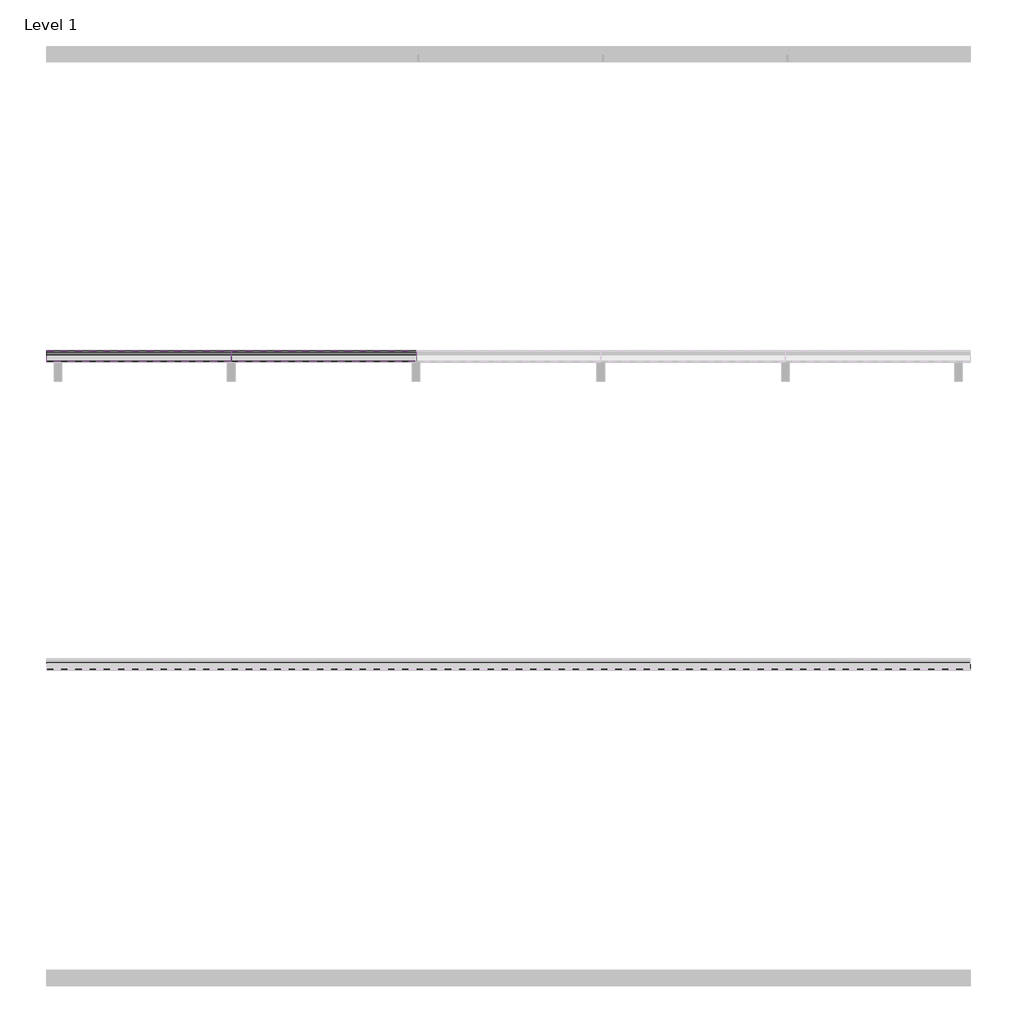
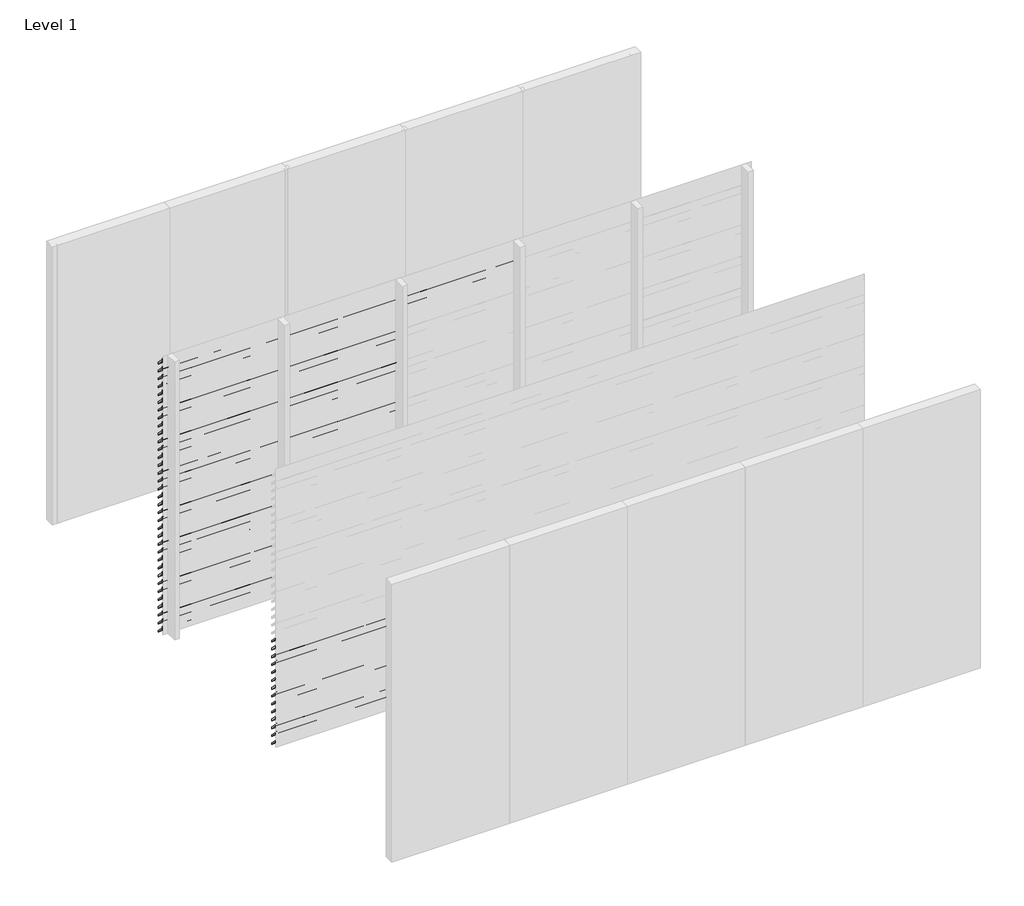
# One storey, part 2 of 10: 90 proxies.
"""IFC4 building model written with IfcOpenShell, lengths in millimetres."""

from ifc_helpers import new_model, si_unit, frame, origin, place, context, project, spatial, polyline, outline, extrude, element, save

model = new_model("IFC4")

# Units and contexts
model_context = context("Model", 3, world=origin())
ifc_project = project(units=[si_unit("LENGTHUNIT", "METRE", prefix="MILLI")], contexts=[model_context])

# Site, building, storey
site = spatial("IfcSite", under=ifc_project)
building = spatial("IfcBuilding", under=site)
storey = spatial("IfcBuildingStorey", under=building, Name="Level 1", Elevation=0.0)

# Proxies
placement = place(None, origin())
element("IfcBuildingElementProxy", 1, Name="Wall Sweeps", at=placement, inside=storey, context=model_context, shape_type="SweptSolid", body=[
    extrude(outline(polyline([(-17995.0, 2975.0), (-17995.0, 2962.0), (-17927.0, 2894.0), (-17927.0, 2876.0), (-17997.0, 2946.0), (-17997.0, 2975.0), (-17995.0, 2975.0)])), frame((2400.0000001, 0.0, 0.0), z_axis=(1.0, 0.0, 0.0), x_axis=(0.0, 1.0, 0.0)), (0.0, 0.0, 1.0), 1199.9999999),
])
element("IfcBuildingElementProxy", 2, Name="Wall Sweeps", at=placement, inside=storey, context=model_context, shape_type="SweptSolid", body=[
    extrude(outline(polyline([(-17995.0, 2890.0), (-17995.0, 2877.0), (-17927.0, 2809.0), (-17927.0, 2791.0), (-17997.0, 2861.0), (-17997.0, 2890.0), (-17995.0, 2890.0)])), frame((2400.0000001, 0.0, 0.0), z_axis=(1.0, 0.0, 0.0), x_axis=(0.0, 1.0, 0.0)), (0.0, 0.0, 1.0), 1199.9999999),
])
element("IfcBuildingElementProxy", 3, Name="Wall Sweeps", at=placement, inside=storey, context=model_context, shape_type="SweptSolid", body=[
    extrude(outline(polyline([(-17995.0, 2805.0), (-17995.0, 2792.0), (-17927.0, 2724.0), (-17927.0, 2706.0), (-17997.0, 2776.0), (-17997.0, 2805.0), (-17995.0, 2805.0)])), frame((2400.0000001, 0.0, 0.0), z_axis=(1.0, 0.0, 0.0), x_axis=(0.0, 1.0, 0.0)), (0.0, 0.0, 1.0), 1199.9999999),
])
element("IfcBuildingElementProxy", 4, Name="Wall Sweeps", at=placement, inside=storey, context=model_context, shape_type="SweptSolid", body=[
    extrude(outline(polyline([(-17995.0, 2720.0), (-17995.0, 2707.0), (-17927.0, 2639.0), (-17927.0, 2621.0), (-17997.0, 2691.0), (-17997.0, 2720.0), (-17995.0, 2720.0)])), frame((2400.0000001, 0.0, 0.0), z_axis=(1.0, 0.0, 0.0), x_axis=(0.0, 1.0, 0.0)), (0.0, 0.0, 1.0), 1199.9999999),
])
element("IfcBuildingElementProxy", 5, Name="Wall Sweeps", at=placement, inside=storey, context=model_context, shape_type="SweptSolid", body=[
    extrude(outline(polyline([(-17995.0, 2635.0), (-17995.0, 2622.0), (-17927.0, 2554.0), (-17927.0, 2536.0), (-17997.0, 2606.0), (-17997.0, 2635.0), (-17995.0, 2635.0)])), frame((2400.0000001, 0.0, 0.0), z_axis=(1.0, 0.0, 0.0), x_axis=(0.0, 1.0, 0.0)), (0.0, 0.0, 1.0), 1199.9999999),
])
element("IfcBuildingElementProxy", 6, Name="Wall Sweeps", at=placement, inside=storey, context=model_context, shape_type="SweptSolid", body=[
    extrude(outline(polyline([(-17995.0, 2550.0), (-17995.0, 2537.0), (-17927.0, 2469.0), (-17927.0, 2451.0), (-17997.0, 2521.0), (-17997.0, 2550.0), (-17995.0, 2550.0)])), frame((2400.0000001, 0.0, 0.0), z_axis=(1.0, 0.0, 0.0), x_axis=(0.0, 1.0, 0.0)), (0.0, 0.0, 1.0), 1199.9999999),
])
element("IfcBuildingElementProxy", 7, Name="Wall Sweeps", at=placement, inside=storey, context=model_context, shape_type="SweptSolid", body=[
    extrude(outline(polyline([(-17995.0, 2975.0), (-17995.0, 2962.0), (-17927.0, 2894.0), (-17927.0, 2876.0), (-17997.0, 2946.0), (-17997.0, 2975.0), (-17995.0, 2975.0)])), frame((1200.0000002, 0.0, 0.0), z_axis=(1.0, 0.0, 0.0), x_axis=(0.0, 1.0, 0.0)), (0.0, 0.0, 1.0), 1199.9999999),
])
element("IfcBuildingElementProxy", 8, Name="Wall Sweeps", at=placement, inside=storey, context=model_context, shape_type="SweptSolid", body=[
    extrude(outline(polyline([(-17995.0, 2890.0), (-17995.0, 2877.0), (-17927.0, 2809.0), (-17927.0, 2791.0), (-17997.0, 2861.0), (-17997.0, 2890.0), (-17995.0, 2890.0)])), frame((1200.0000002, 0.0, 0.0), z_axis=(1.0, 0.0, 0.0), x_axis=(0.0, 1.0, 0.0)), (0.0, 0.0, 1.0), 1199.9999999),
])
element("IfcBuildingElementProxy", 9, Name="Wall Sweeps", at=placement, inside=storey, context=model_context, shape_type="SweptSolid", body=[
    extrude(outline(polyline([(-17995.0, 2805.0), (-17995.0, 2792.0), (-17927.0, 2724.0), (-17927.0, 2706.0), (-17997.0, 2776.0), (-17997.0, 2805.0), (-17995.0, 2805.0)])), frame((1200.0000002, 0.0, 0.0), z_axis=(1.0, 0.0, 0.0), x_axis=(0.0, 1.0, 0.0)), (0.0, 0.0, 1.0), 1199.9999999),
])
element("IfcBuildingElementProxy", 10, Name="Wall Sweeps", at=placement, inside=storey, context=model_context, shape_type="SweptSolid", body=[
    extrude(outline(polyline([(-17995.0, 2720.0), (-17995.0, 2707.0), (-17927.0, 2639.0), (-17927.0, 2621.0), (-17997.0, 2691.0), (-17997.0, 2720.0), (-17995.0, 2720.0)])), frame((1200.0000002, 0.0, 0.0), z_axis=(1.0, 0.0, 0.0), x_axis=(0.0, 1.0, 0.0)), (0.0, 0.0, 1.0), 1199.9999999),
])
element("IfcBuildingElementProxy", 11, Name="Wall Sweeps", at=placement, inside=storey, context=model_context, shape_type="SweptSolid", body=[
    extrude(outline(polyline([(-17995.0, 2635.0), (-17995.0, 2622.0), (-17927.0, 2554.0), (-17927.0, 2536.0), (-17997.0, 2606.0), (-17997.0, 2635.0), (-17995.0, 2635.0)])), frame((1200.0000002, 0.0, 0.0), z_axis=(1.0, 0.0, 0.0), x_axis=(0.0, 1.0, 0.0)), (0.0, 0.0, 1.0), 1199.9999999),
])
element("IfcBuildingElementProxy", 12, Name="Wall Sweeps", at=placement, inside=storey, context=model_context, shape_type="SweptSolid", body=[
    extrude(outline(polyline([(-17995.0, 2550.0), (-17995.0, 2537.0), (-17927.0, 2469.0), (-17927.0, 2451.0), (-17997.0, 2521.0), (-17997.0, 2550.0), (-17995.0, 2550.0)])), frame((1200.0000002, 0.0, 0.0), z_axis=(1.0, 0.0, 0.0), x_axis=(0.0, 1.0, 0.0)), (0.0, 0.0, 1.0), 1199.9999999),
])
element("IfcBuildingElementProxy", 13, Name="Wall Sweeps", at=placement, inside=storey, context=model_context, shape_type="SweptSolid", body=[
    extrude(outline(polyline([(-17995.0, 2465.0), (-17995.0, 2452.0), (-17927.0, 2384.0), (-17927.0, 2366.0), (-17997.0, 2436.0), (-17997.0, 2465.0), (-17995.0, 2465.0)])), frame((1200.0000002, 0.0, 0.0), z_axis=(1.0, 0.0, 0.0), x_axis=(0.0, 1.0, 0.0)), (0.0, 0.0, 1.0), 1199.9999999),
])
element("IfcBuildingElementProxy", 14, Name="Wall Sweeps", at=placement, inside=storey, context=model_context, shape_type="SweptSolid", body=[
    extrude(outline(polyline([(-17995.0, 2380.0), (-17995.0, 2367.0), (-17927.0, 2299.0), (-17927.0, 2281.0), (-17997.0, 2351.0), (-17997.0, 2380.0), (-17995.0, 2380.0)])), frame((1200.0000002, 0.0, 0.0), z_axis=(1.0, 0.0, 0.0), x_axis=(0.0, 1.0, 0.0)), (0.0, 0.0, 1.0), 1199.9999999),
])
element("IfcBuildingElementProxy", 15, Name="Wall Sweeps", at=placement, inside=storey, context=model_context, shape_type="SweptSolid", body=[
    extrude(outline(polyline([(-17995.0, 2295.0), (-17995.0, 2282.0), (-17927.0, 2214.0), (-17927.0, 2196.0), (-17997.0, 2266.0), (-17997.0, 2295.0), (-17995.0, 2295.0)])), frame((1200.0000002, 0.0, 0.0), z_axis=(1.0, 0.0, 0.0), x_axis=(0.0, 1.0, 0.0)), (0.0, 0.0, 1.0), 1199.9999999),
])
element("IfcBuildingElementProxy", 16, Name="Wall Sweeps", at=placement, inside=storey, context=model_context, shape_type="SweptSolid", body=[
    extrude(outline(polyline([(-17995.0, 2210.0), (-17995.0, 2197.0), (-17927.0, 2129.0), (-17927.0, 2111.0), (-17997.0, 2181.0), (-17997.0, 2210.0), (-17995.0, 2210.0)])), frame((1200.0000002, 0.0, 0.0), z_axis=(1.0, 0.0, 0.0), x_axis=(0.0, 1.0, 0.0)), (0.0, 0.0, 1.0), 1199.9999999),
])
element("IfcBuildingElementProxy", 17, Name="Wall Sweeps", at=placement, inside=storey, context=model_context, shape_type="SweptSolid", body=[
    extrude(outline(polyline([(-17995.0, 2125.0), (-17995.0, 2112.0), (-17927.0, 2044.0), (-17927.0, 2026.0), (-17997.0, 2096.0), (-17997.0, 2125.0), (-17995.0, 2125.0)])), frame((1200.0000002, 0.0, 0.0), z_axis=(1.0, 0.0, 0.0), x_axis=(0.0, 1.0, 0.0)), (0.0, 0.0, 1.0), 1199.9999999),
])
element("IfcBuildingElementProxy", 18, Name="Wall Sweeps", at=placement, inside=storey, context=model_context, shape_type="SweptSolid", body=[
    extrude(outline(polyline([(-17995.0, 2040.0), (-17995.0, 2027.0), (-17927.0, 1959.0), (-17927.0, 1941.0), (-17997.0, 2011.0), (-17997.0, 2040.0), (-17995.0, 2040.0)])), frame((1200.0000002, 0.0, 0.0), z_axis=(1.0, 0.0, 0.0), x_axis=(0.0, 1.0, 0.0)), (0.0, 0.0, 1.0), 1199.9999999),
])
element("IfcBuildingElementProxy", 19, Name="Wall Sweeps", at=placement, inside=storey, context=model_context, shape_type="SweptSolid", body=[
    extrude(outline(polyline([(-17995.0, 1955.0), (-17995.0, 1942.0), (-17927.0, 1874.0), (-17927.0, 1856.0), (-17997.0, 1926.0), (-17997.0, 1955.0), (-17995.0, 1955.0)])), frame((1200.0000002, 0.0, 0.0), z_axis=(1.0, 0.0, 0.0), x_axis=(0.0, 1.0, 0.0)), (0.0, 0.0, 1.0), 1199.9999999),
])
element("IfcBuildingElementProxy", 20, Name="Wall Sweeps", at=placement, inside=storey, context=model_context, shape_type="SweptSolid", body=[
    extrude(outline(polyline([(-17995.0, 1870.0), (-17995.0, 1857.0), (-17927.0, 1789.0), (-17927.0, 1771.0), (-17997.0, 1841.0), (-17997.0, 1870.0), (-17995.0, 1870.0)])), frame((1200.0000002, 0.0, 0.0), z_axis=(1.0, 0.0, 0.0), x_axis=(0.0, 1.0, 0.0)), (0.0, 0.0, 1.0), 1199.9999999),
])
element("IfcBuildingElementProxy", 21, Name="Wall Sweeps", at=placement, inside=storey, context=model_context, shape_type="SweptSolid", body=[
    extrude(outline(polyline([(-17995.0, 1785.0), (-17995.0, 1772.0), (-17927.0, 1704.0), (-17927.0, 1686.0), (-17997.0, 1756.0), (-17997.0, 1785.0), (-17995.0, 1785.0)])), frame((1200.0000002, 0.0, 0.0), z_axis=(1.0, 0.0, 0.0), x_axis=(0.0, 1.0, 0.0)), (0.0, 0.0, 1.0), 1199.9999999),
])
element("IfcBuildingElementProxy", 22, Name="Wall Sweeps", at=placement, inside=storey, context=model_context, shape_type="SweptSolid", body=[
    extrude(outline(polyline([(-17995.0, 1700.0), (-17995.0, 1687.0), (-17927.0, 1619.0), (-17927.0, 1601.0), (-17997.0, 1671.0), (-17997.0, 1700.0), (-17995.0, 1700.0)])), frame((1200.0000002, 0.0, 0.0), z_axis=(1.0, 0.0, 0.0), x_axis=(0.0, 1.0, 0.0)), (0.0, 0.0, 1.0), 1199.9999999),
])
element("IfcBuildingElementProxy", 23, Name="Wall Sweeps", at=placement, inside=storey, context=model_context, shape_type="SweptSolid", body=[
    extrude(outline(polyline([(-17995.0, 1615.0), (-17995.0, 1602.0), (-17927.0, 1534.0), (-17927.0, 1516.0), (-17997.0, 1586.0), (-17997.0, 1615.0), (-17995.0, 1615.0)])), frame((1200.0000002, 0.0, 0.0), z_axis=(1.0, 0.0, 0.0), x_axis=(0.0, 1.0, 0.0)), (0.0, 0.0, 1.0), 1199.9999999),
])
element("IfcBuildingElementProxy", 24, Name="Wall Sweeps", at=placement, inside=storey, context=model_context, shape_type="SweptSolid", body=[
    extrude(outline(polyline([(-17995.0, 1530.0), (-17995.0, 1517.0), (-17927.0, 1449.0), (-17927.0, 1431.0), (-17997.0, 1501.0), (-17997.0, 1530.0), (-17995.0, 1530.0)])), frame((1200.0000002, 0.0, 0.0), z_axis=(1.0, 0.0, 0.0), x_axis=(0.0, 1.0, 0.0)), (0.0, 0.0, 1.0), 1199.9999999),
])
element("IfcBuildingElementProxy", 25, Name="Wall Sweeps", at=placement, inside=storey, context=model_context, shape_type="SweptSolid", body=[
    extrude(outline(polyline([(-17995.0, 1445.0), (-17995.0, 1432.0), (-17927.0, 1364.0), (-17927.0, 1346.0), (-17997.0, 1416.0), (-17997.0, 1445.0), (-17995.0, 1445.0)])), frame((1200.0000002, 0.0, 0.0), z_axis=(1.0, 0.0, 0.0), x_axis=(0.0, 1.0, 0.0)), (0.0, 0.0, 1.0), 1199.9999999),
])
element("IfcBuildingElementProxy", 26, Name="Wall Sweeps", at=placement, inside=storey, context=model_context, shape_type="SweptSolid", body=[
    extrude(outline(polyline([(-17995.0, 1360.0), (-17995.0, 1347.0), (-17927.0, 1279.0), (-17927.0, 1261.0), (-17997.0, 1331.0), (-17997.0, 1360.0), (-17995.0, 1360.0)])), frame((1200.0000002, 0.0, 0.0), z_axis=(1.0, 0.0, 0.0), x_axis=(0.0, 1.0, 0.0)), (0.0, 0.0, 1.0), 1199.9999999),
])
element("IfcBuildingElementProxy", 27, Name="Wall Sweeps", at=placement, inside=storey, context=model_context, shape_type="SweptSolid", body=[
    extrude(outline(polyline([(-17995.0, 1275.0), (-17995.0, 1262.0), (-17927.0, 1194.0), (-17927.0, 1176.0), (-17997.0, 1246.0), (-17997.0, 1275.0), (-17995.0, 1275.0)])), frame((1200.0000002, 0.0, 0.0), z_axis=(1.0, 0.0, 0.0), x_axis=(0.0, 1.0, 0.0)), (0.0, 0.0, 1.0), 1199.9999999),
])
element("IfcBuildingElementProxy", 28, Name="Wall Sweeps", at=placement, inside=storey, context=model_context, shape_type="SweptSolid", body=[
    extrude(outline(polyline([(-17995.0, 1190.0), (-17995.0, 1177.0), (-17927.0, 1109.0), (-17927.0, 1091.0), (-17997.0, 1161.0), (-17997.0, 1190.0), (-17995.0, 1190.0)])), frame((1200.0000002, 0.0, 0.0), z_axis=(1.0, 0.0, 0.0), x_axis=(0.0, 1.0, 0.0)), (0.0, 0.0, 1.0), 1199.9999999),
])
element("IfcBuildingElementProxy", 29, Name="Wall Sweeps", at=placement, inside=storey, context=model_context, shape_type="SweptSolid", body=[
    extrude(outline(polyline([(-17995.0, 1105.0), (-17995.0, 1092.0), (-17927.0, 1024.0), (-17927.0, 1006.0), (-17997.0, 1076.0), (-17997.0, 1105.0), (-17995.0, 1105.0)])), frame((1200.0000002, 0.0, 0.0), z_axis=(1.0, 0.0, 0.0), x_axis=(0.0, 1.0, 0.0)), (0.0, 0.0, 1.0), 1199.9999999),
])
element("IfcBuildingElementProxy", 30, Name="Wall Sweeps", at=placement, inside=storey, context=model_context, shape_type="SweptSolid", body=[
    extrude(outline(polyline([(-17995.0, 1020.0), (-17995.0, 1007.0), (-17927.0, 939.0), (-17927.0, 921.0), (-17997.0, 991.0), (-17997.0, 1020.0), (-17995.0, 1020.0)])), frame((1200.0000002, 0.0, 0.0), z_axis=(1.0, 0.0, 0.0), x_axis=(0.0, 1.0, 0.0)), (0.0, 0.0, 1.0), 1199.9999999),
])
element("IfcBuildingElementProxy", 31, Name="Wall Sweeps", at=placement, inside=storey, context=model_context, shape_type="SweptSolid", body=[
    extrude(outline(polyline([(-17995.0, 935.0), (-17995.0, 922.0), (-17927.0, 854.0), (-17927.0, 836.0), (-17997.0, 906.0), (-17997.0, 935.0), (-17995.0, 935.0)])), frame((1200.0000002, 0.0, 0.0), z_axis=(1.0, 0.0, 0.0), x_axis=(0.0, 1.0, 0.0)), (0.0, 0.0, 1.0), 1199.9999999),
])
element("IfcBuildingElementProxy", 32, Name="Wall Sweeps", at=placement, inside=storey, context=model_context, shape_type="SweptSolid", body=[
    extrude(outline(polyline([(-17995.0, 850.0), (-17995.0, 837.0), (-17927.0, 769.0), (-17927.0, 751.0), (-17997.0, 821.0), (-17997.0, 850.0), (-17995.0, 850.0)])), frame((1200.0000002, 0.0, 0.0), z_axis=(1.0, 0.0, 0.0), x_axis=(0.0, 1.0, 0.0)), (0.0, 0.0, 1.0), 1199.9999999),
])
element("IfcBuildingElementProxy", 33, Name="Wall Sweeps", at=placement, inside=storey, context=model_context, shape_type="SweptSolid", body=[
    extrude(outline(polyline([(-17995.0, 765.0), (-17995.0, 752.0), (-17927.0, 684.0), (-17927.0, 666.0), (-17997.0, 736.0), (-17997.0, 765.0), (-17995.0, 765.0)])), frame((1200.0000002, 0.0, 0.0), z_axis=(1.0, 0.0, 0.0), x_axis=(0.0, 1.0, 0.0)), (0.0, 0.0, 1.0), 1199.9999999),
])
element("IfcBuildingElementProxy", 34, Name="Wall Sweeps", at=placement, inside=storey, context=model_context, shape_type="SweptSolid", body=[
    extrude(outline(polyline([(-17995.0, 680.0), (-17995.0, 667.0), (-17927.0, 599.0), (-17927.0, 581.0), (-17997.0, 651.0), (-17997.0, 680.0), (-17995.0, 680.0)])), frame((1200.0000002, 0.0, 0.0), z_axis=(1.0, 0.0, 0.0), x_axis=(0.0, 1.0, 0.0)), (0.0, 0.0, 1.0), 1199.9999999),
])
element("IfcBuildingElementProxy", 35, Name="Wall Sweeps", at=placement, inside=storey, context=model_context, shape_type="SweptSolid", body=[
    extrude(outline(polyline([(-17995.0, 595.0), (-17995.0, 582.0), (-17927.0, 514.0), (-17927.0, 496.0), (-17997.0, 566.0), (-17997.0, 595.0), (-17995.0, 595.0)])), frame((1200.0000002, 0.0, 0.0), z_axis=(1.0, 0.0, 0.0), x_axis=(0.0, 1.0, 0.0)), (0.0, 0.0, 1.0), 1199.9999999),
])
element("IfcBuildingElementProxy", 36, Name="Wall Sweeps", at=placement, inside=storey, context=model_context, shape_type="SweptSolid", body=[
    extrude(outline(polyline([(-17995.0, 510.0), (-17995.0, 497.0), (-17927.0, 429.0), (-17927.0, 411.0), (-17997.0, 481.0), (-17997.0, 510.0), (-17995.0, 510.0)])), frame((1200.0000002, 0.0, 0.0), z_axis=(1.0, 0.0, 0.0), x_axis=(0.0, 1.0, 0.0)), (0.0, 0.0, 1.0), 1199.9999999),
])
element("IfcBuildingElementProxy", 37, Name="Wall Sweeps", at=placement, inside=storey, context=model_context, shape_type="SweptSolid", body=[
    extrude(outline(polyline([(-17995.0, 425.0), (-17995.0, 412.0), (-17927.0, 344.0), (-17927.0, 326.0), (-17997.0, 396.0), (-17997.0, 425.0), (-17995.0, 425.0)])), frame((1200.0000002, 0.0, 0.0), z_axis=(1.0, 0.0, 0.0), x_axis=(0.0, 1.0, 0.0)), (0.0, 0.0, 1.0), 1199.9999999),
])
element("IfcBuildingElementProxy", 38, Name="Wall Sweeps", at=placement, inside=storey, context=model_context, shape_type="SweptSolid", body=[
    extrude(outline(polyline([(-17995.0, 340.0), (-17995.0, 327.0), (-17927.0, 259.0), (-17927.0, 241.0), (-17997.0, 311.0), (-17997.0, 340.0), (-17995.0, 340.0)])), frame((1200.0000002, 0.0, 0.0), z_axis=(1.0, 0.0, 0.0), x_axis=(0.0, 1.0, 0.0)), (0.0, 0.0, 1.0), 1199.9999999),
])
element("IfcBuildingElementProxy", 39, Name="Wall Sweeps", at=placement, inside=storey, context=model_context, shape_type="SweptSolid", body=[
    extrude(outline(polyline([(-17995.0, 255.0), (-17995.0, 242.0), (-17927.0, 174.0), (-17927.0, 156.0), (-17997.0, 226.0), (-17997.0, 255.0), (-17995.0, 255.0)])), frame((1200.0000002, 0.0, 0.0), z_axis=(1.0, 0.0, 0.0), x_axis=(0.0, 1.0, 0.0)), (0.0, 0.0, 1.0), 1199.9999999),
])
element("IfcBuildingElementProxy", 40, Name="Wall Sweeps", at=placement, inside=storey, context=model_context, shape_type="SweptSolid", body=[
    extrude(outline(polyline([(-17995.0, 170.0), (-17995.0, 157.0), (-17927.0, 89.0), (-17927.0, 71.0), (-17997.0, 141.0), (-17997.0, 170.0), (-17995.0, 170.0)])), frame((1200.0000002, 0.0, 0.0), z_axis=(1.0, 0.0, 0.0), x_axis=(0.0, 1.0, 0.0)), (0.0, 0.0, 1.0), 1199.9999999),
])
element("IfcBuildingElementProxy", 41, Name="Wall Sweeps", at=placement, inside=storey, context=model_context, shape_type="SweptSolid", body=[
    extrude(outline(polyline([(-17995.0, 85.0), (-17995.0, 72.0), (-17927.0, 4.0), (-17927.0, -14.0), (-17997.0, 56.0), (-17997.0, 85.0), (-17995.0, 85.0)])), frame((1200.0000002, 0.0, 0.0), z_axis=(1.0, 0.0, 0.0), x_axis=(0.0, 1.0, 0.0)), (0.0, 0.0, 1.0), 1199.9999999),
])
element("IfcBuildingElementProxy", 42, Name="Wall Sweeps", at=placement, inside=storey, context=model_context, shape_type="SweptSolid", body=[
    extrude(outline(polyline([(-17995.0, 2975.0), (-17995.0, 2962.0), (-17927.0, 2894.0), (-17927.0, 2876.0), (-17997.0, 2946.0), (-17997.0, 2975.0), (-17995.0, 2975.0)])), frame((0.0, 0.0, 0.0), z_axis=(1.0, 0.0, 0.0), x_axis=(0.0, 1.0, 0.0)), (0.0, 0.0, 1.0), 1200.0000002),
])
element("IfcBuildingElementProxy", 43, Name="Wall Sweeps", at=placement, inside=storey, context=model_context, shape_type="SweptSolid", body=[
    extrude(outline(polyline([(-17995.0, 2890.0), (-17995.0, 2877.0), (-17927.0, 2809.0), (-17927.0, 2791.0), (-17997.0, 2861.0), (-17997.0, 2890.0), (-17995.0, 2890.0)])), frame((0.0, 0.0, 0.0), z_axis=(1.0, 0.0, 0.0), x_axis=(0.0, 1.0, 0.0)), (0.0, 0.0, 1.0), 1200.0000002),
])
element("IfcBuildingElementProxy", 44, Name="Wall Sweeps", at=placement, inside=storey, context=model_context, shape_type="SweptSolid", body=[
    extrude(outline(polyline([(-17995.0, 2805.0), (-17995.0, 2792.0), (-17927.0, 2724.0), (-17927.0, 2706.0), (-17997.0, 2776.0), (-17997.0, 2805.0), (-17995.0, 2805.0)])), frame((0.0, 0.0, 0.0), z_axis=(1.0, 0.0, 0.0), x_axis=(0.0, 1.0, 0.0)), (0.0, 0.0, 1.0), 1200.0000002),
])
element("IfcBuildingElementProxy", 45, Name="Wall Sweeps", at=placement, inside=storey, context=model_context, shape_type="SweptSolid", body=[
    extrude(outline(polyline([(-17995.0, 2720.0), (-17995.0, 2707.0), (-17927.0, 2639.0), (-17927.0, 2621.0), (-17997.0, 2691.0), (-17997.0, 2720.0), (-17995.0, 2720.0)])), frame((0.0, 0.0, 0.0), z_axis=(1.0, 0.0, 0.0), x_axis=(0.0, 1.0, 0.0)), (0.0, 0.0, 1.0), 1200.0000002),
])
element("IfcBuildingElementProxy", 46, Name="Wall Sweeps", at=placement, inside=storey, context=model_context, shape_type="SweptSolid", body=[
    extrude(outline(polyline([(-17995.0, 2635.0), (-17995.0, 2622.0), (-17927.0, 2554.0), (-17927.0, 2536.0), (-17997.0, 2606.0), (-17997.0, 2635.0), (-17995.0, 2635.0)])), frame((0.0, 0.0, 0.0), z_axis=(1.0, 0.0, 0.0), x_axis=(0.0, 1.0, 0.0)), (0.0, 0.0, 1.0), 1200.0000002),
])
element("IfcBuildingElementProxy", 47, Name="Wall Sweeps", at=placement, inside=storey, context=model_context, shape_type="SweptSolid", body=[
    extrude(outline(polyline([(-17995.0, 2550.0), (-17995.0, 2537.0), (-17927.0, 2469.0), (-17927.0, 2451.0), (-17997.0, 2521.0), (-17997.0, 2550.0), (-17995.0, 2550.0)])), frame((0.0, 0.0, 0.0), z_axis=(1.0, 0.0, 0.0), x_axis=(0.0, 1.0, 0.0)), (0.0, 0.0, 1.0), 1200.0000002),
])
element("IfcBuildingElementProxy", 48, Name="Wall Sweeps", at=placement, inside=storey, context=model_context, shape_type="SweptSolid", body=[
    extrude(outline(polyline([(-17995.0, 2465.0), (-17995.0, 2452.0), (-17927.0, 2384.0), (-17927.0, 2366.0), (-17997.0, 2436.0), (-17997.0, 2465.0), (-17995.0, 2465.0)])), frame((0.0, 0.0, 0.0), z_axis=(1.0, 0.0, 0.0), x_axis=(0.0, 1.0, 0.0)), (0.0, 0.0, 1.0), 1200.0000002),
])
element("IfcBuildingElementProxy", 49, Name="Wall Sweeps", at=placement, inside=storey, context=model_context, shape_type="SweptSolid", body=[
    extrude(outline(polyline([(-17995.0, 2380.0), (-17995.0, 2367.0), (-17927.0, 2299.0), (-17927.0, 2281.0), (-17997.0, 2351.0), (-17997.0, 2380.0), (-17995.0, 2380.0)])), frame((0.0, 0.0, 0.0), z_axis=(1.0, 0.0, 0.0), x_axis=(0.0, 1.0, 0.0)), (0.0, 0.0, 1.0), 1200.0000002),
])
element("IfcBuildingElementProxy", 50, Name="Wall Sweeps", at=placement, inside=storey, context=model_context, shape_type="SweptSolid", body=[
    extrude(outline(polyline([(-17995.0, 2295.0), (-17995.0, 2282.0), (-17927.0, 2214.0), (-17927.0, 2196.0), (-17997.0, 2266.0), (-17997.0, 2295.0), (-17995.0, 2295.0)])), frame((0.0, 0.0, 0.0), z_axis=(1.0, 0.0, 0.0), x_axis=(0.0, 1.0, 0.0)), (0.0, 0.0, 1.0), 1200.0000002),
])
element("IfcBuildingElementProxy", 51, Name="Wall Sweeps", at=placement, inside=storey, context=model_context, shape_type="SweptSolid", body=[
    extrude(outline(polyline([(-17995.0, 2210.0), (-17995.0, 2197.0), (-17927.0, 2129.0), (-17927.0, 2111.0), (-17997.0, 2181.0), (-17997.0, 2210.0), (-17995.0, 2210.0)])), frame((0.0, 0.0, 0.0), z_axis=(1.0, 0.0, 0.0), x_axis=(0.0, 1.0, 0.0)), (0.0, 0.0, 1.0), 1200.0000002),
])
element("IfcBuildingElementProxy", 52, Name="Wall Sweeps", at=placement, inside=storey, context=model_context, shape_type="SweptSolid", body=[
    extrude(outline(polyline([(-17995.0, 2125.0), (-17995.0, 2112.0), (-17927.0, 2044.0), (-17927.0, 2026.0), (-17997.0, 2096.0), (-17997.0, 2125.0), (-17995.0, 2125.0)])), frame((0.0, 0.0, 0.0), z_axis=(1.0, 0.0, 0.0), x_axis=(0.0, 1.0, 0.0)), (0.0, 0.0, 1.0), 1200.0000002),
])
element("IfcBuildingElementProxy", 53, Name="Wall Sweeps", at=placement, inside=storey, context=model_context, shape_type="SweptSolid", body=[
    extrude(outline(polyline([(-17995.0, 2040.0), (-17995.0, 2027.0), (-17927.0, 1959.0), (-17927.0, 1941.0), (-17997.0, 2011.0), (-17997.0, 2040.0), (-17995.0, 2040.0)])), frame((0.0, 0.0, 0.0), z_axis=(1.0, 0.0, 0.0), x_axis=(0.0, 1.0, 0.0)), (0.0, 0.0, 1.0), 1200.0000002),
])
element("IfcBuildingElementProxy", 54, Name="Wall Sweeps", at=placement, inside=storey, context=model_context, shape_type="SweptSolid", body=[
    extrude(outline(polyline([(-17995.0, 1955.0), (-17995.0, 1942.0), (-17927.0, 1874.0), (-17927.0, 1856.0), (-17997.0, 1926.0), (-17997.0, 1955.0), (-17995.0, 1955.0)])), frame((0.0, 0.0, 0.0), z_axis=(1.0, 0.0, 0.0), x_axis=(0.0, 1.0, 0.0)), (0.0, 0.0, 1.0), 1200.0000002),
])
element("IfcBuildingElementProxy", 55, Name="Wall Sweeps", at=placement, inside=storey, context=model_context, shape_type="SweptSolid", body=[
    extrude(outline(polyline([(-17995.0, 1870.0), (-17995.0, 1857.0), (-17927.0, 1789.0), (-17927.0, 1771.0), (-17997.0, 1841.0), (-17997.0, 1870.0), (-17995.0, 1870.0)])), frame((0.0, 0.0, 0.0), z_axis=(1.0, 0.0, 0.0), x_axis=(0.0, 1.0, 0.0)), (0.0, 0.0, 1.0), 1200.0000002),
])
element("IfcBuildingElementProxy", 56, Name="Wall Sweeps", at=placement, inside=storey, context=model_context, shape_type="SweptSolid", body=[
    extrude(outline(polyline([(-17995.0, 1785.0), (-17995.0, 1772.0), (-17927.0, 1704.0), (-17927.0, 1686.0), (-17997.0, 1756.0), (-17997.0, 1785.0), (-17995.0, 1785.0)])), frame((0.0, 0.0, 0.0), z_axis=(1.0, 0.0, 0.0), x_axis=(0.0, 1.0, 0.0)), (0.0, 0.0, 1.0), 1200.0000002),
])
element("IfcBuildingElementProxy", 57, Name="Wall Sweeps", at=placement, inside=storey, context=model_context, shape_type="SweptSolid", body=[
    extrude(outline(polyline([(-17995.0, 1700.0), (-17995.0, 1687.0), (-17927.0, 1619.0), (-17927.0, 1601.0), (-17997.0, 1671.0), (-17997.0, 1700.0), (-17995.0, 1700.0)])), frame((0.0, 0.0, 0.0), z_axis=(1.0, 0.0, 0.0), x_axis=(0.0, 1.0, 0.0)), (0.0, 0.0, 1.0), 1200.0000002),
])
element("IfcBuildingElementProxy", 58, Name="Wall Sweeps", at=placement, inside=storey, context=model_context, shape_type="SweptSolid", body=[
    extrude(outline(polyline([(-17995.0, 1615.0), (-17995.0, 1602.0), (-17927.0, 1534.0), (-17927.0, 1516.0), (-17997.0, 1586.0), (-17997.0, 1615.0), (-17995.0, 1615.0)])), frame((0.0, 0.0, 0.0), z_axis=(1.0, 0.0, 0.0), x_axis=(0.0, 1.0, 0.0)), (0.0, 0.0, 1.0), 1200.0000002),
])
element("IfcBuildingElementProxy", 59, Name="Wall Sweeps", at=placement, inside=storey, context=model_context, shape_type="SweptSolid", body=[
    extrude(outline(polyline([(-17995.0, 1530.0), (-17995.0, 1517.0), (-17927.0, 1449.0), (-17927.0, 1431.0), (-17997.0, 1501.0), (-17997.0, 1530.0), (-17995.0, 1530.0)])), frame((0.0, 0.0, 0.0), z_axis=(1.0, 0.0, 0.0), x_axis=(0.0, 1.0, 0.0)), (0.0, 0.0, 1.0), 1200.0000002),
])
element("IfcBuildingElementProxy", 60, Name="Wall Sweeps", at=placement, inside=storey, context=model_context, shape_type="SweptSolid", body=[
    extrude(outline(polyline([(-17995.0, 1445.0), (-17995.0, 1432.0), (-17927.0, 1364.0), (-17927.0, 1346.0), (-17997.0, 1416.0), (-17997.0, 1445.0), (-17995.0, 1445.0)])), frame((0.0, 0.0, 0.0), z_axis=(1.0, 0.0, 0.0), x_axis=(0.0, 1.0, 0.0)), (0.0, 0.0, 1.0), 1200.0000002),
])
element("IfcBuildingElementProxy", 61, Name="Wall Sweeps", at=placement, inside=storey, context=model_context, shape_type="SweptSolid", body=[
    extrude(outline(polyline([(-17995.0, 1360.0), (-17995.0, 1347.0), (-17927.0, 1279.0), (-17927.0, 1261.0), (-17997.0, 1331.0), (-17997.0, 1360.0), (-17995.0, 1360.0)])), frame((0.0, 0.0, 0.0), z_axis=(1.0, 0.0, 0.0), x_axis=(0.0, 1.0, 0.0)), (0.0, 0.0, 1.0), 1200.0000002),
])
element("IfcBuildingElementProxy", 62, Name="Wall Sweeps", at=placement, inside=storey, context=model_context, shape_type="SweptSolid", body=[
    extrude(outline(polyline([(-17995.0, 1275.0), (-17995.0, 1262.0), (-17927.0, 1194.0), (-17927.0, 1176.0), (-17997.0, 1246.0), (-17997.0, 1275.0), (-17995.0, 1275.0)])), frame((0.0, 0.0, 0.0), z_axis=(1.0, 0.0, 0.0), x_axis=(0.0, 1.0, 0.0)), (0.0, 0.0, 1.0), 1200.0000002),
])
element("IfcBuildingElementProxy", 63, Name="Wall Sweeps", at=placement, inside=storey, context=model_context, shape_type="SweptSolid", body=[
    extrude(outline(polyline([(-17995.0, 1190.0), (-17995.0, 1177.0), (-17927.0, 1109.0), (-17927.0, 1091.0), (-17997.0, 1161.0), (-17997.0, 1190.0), (-17995.0, 1190.0)])), frame((0.0, 0.0, 0.0), z_axis=(1.0, 0.0, 0.0), x_axis=(0.0, 1.0, 0.0)), (0.0, 0.0, 1.0), 1200.0000002),
])
element("IfcBuildingElementProxy", 64, Name="Wall Sweeps", at=placement, inside=storey, context=model_context, shape_type="SweptSolid", body=[
    extrude(outline(polyline([(-17995.0, 1105.0), (-17995.0, 1092.0), (-17927.0, 1024.0), (-17927.0, 1006.0), (-17997.0, 1076.0), (-17997.0, 1105.0), (-17995.0, 1105.0)])), frame((0.0, 0.0, 0.0), z_axis=(1.0, 0.0, 0.0), x_axis=(0.0, 1.0, 0.0)), (0.0, 0.0, 1.0), 1200.0000002),
])
element("IfcBuildingElementProxy", 65, Name="Wall Sweeps", at=placement, inside=storey, context=model_context, shape_type="SweptSolid", body=[
    extrude(outline(polyline([(-17995.0, 1020.0), (-17995.0, 1007.0), (-17927.0, 939.0), (-17927.0, 921.0), (-17997.0, 991.0), (-17997.0, 1020.0), (-17995.0, 1020.0)])), frame((0.0, 0.0, 0.0), z_axis=(1.0, 0.0, 0.0), x_axis=(0.0, 1.0, 0.0)), (0.0, 0.0, 1.0), 1200.0000002),
])
element("IfcBuildingElementProxy", 66, Name="Wall Sweeps", at=placement, inside=storey, context=model_context, shape_type="SweptSolid", body=[
    extrude(outline(polyline([(-17995.0, 935.0), (-17995.0, 922.0), (-17927.0, 854.0), (-17927.0, 836.0), (-17997.0, 906.0), (-17997.0, 935.0), (-17995.0, 935.0)])), frame((0.0, 0.0, 0.0), z_axis=(1.0, 0.0, 0.0), x_axis=(0.0, 1.0, 0.0)), (0.0, 0.0, 1.0), 1200.0000002),
])
element("IfcBuildingElementProxy", 67, Name="Wall Sweeps", at=placement, inside=storey, context=model_context, shape_type="SweptSolid", body=[
    extrude(outline(polyline([(-17995.0, 850.0), (-17995.0, 837.0), (-17927.0, 769.0), (-17927.0, 751.0), (-17997.0, 821.0), (-17997.0, 850.0), (-17995.0, 850.0)])), frame((0.0, 0.0, 0.0), z_axis=(1.0, 0.0, 0.0), x_axis=(0.0, 1.0, 0.0)), (0.0, 0.0, 1.0), 1200.0000002),
])
element("IfcBuildingElementProxy", 68, Name="Wall Sweeps", at=placement, inside=storey, context=model_context, shape_type="SweptSolid", body=[
    extrude(outline(polyline([(-17995.0, 765.0), (-17995.0, 752.0), (-17927.0, 684.0), (-17927.0, 666.0), (-17997.0, 736.0), (-17997.0, 765.0), (-17995.0, 765.0)])), frame((0.0, 0.0, 0.0), z_axis=(1.0, 0.0, 0.0), x_axis=(0.0, 1.0, 0.0)), (0.0, 0.0, 1.0), 1200.0000002),
])
element("IfcBuildingElementProxy", 69, Name="Wall Sweeps", at=placement, inside=storey, context=model_context, shape_type="SweptSolid", body=[
    extrude(outline(polyline([(-17995.0, 680.0), (-17995.0, 667.0), (-17927.0, 599.0), (-17927.0, 581.0), (-17997.0, 651.0), (-17997.0, 680.0), (-17995.0, 680.0)])), frame((0.0, 0.0, 0.0), z_axis=(1.0, 0.0, 0.0), x_axis=(0.0, 1.0, 0.0)), (0.0, 0.0, 1.0), 1200.0000002),
])
element("IfcBuildingElementProxy", 70, Name="Wall Sweeps", at=placement, inside=storey, context=model_context, shape_type="SweptSolid", body=[
    extrude(outline(polyline([(-17995.0, 595.0), (-17995.0, 582.0), (-17927.0, 514.0), (-17927.0, 496.0), (-17997.0, 566.0), (-17997.0, 595.0), (-17995.0, 595.0)])), frame((0.0, 0.0, 0.0), z_axis=(1.0, 0.0, 0.0), x_axis=(0.0, 1.0, 0.0)), (0.0, 0.0, 1.0), 1200.0000002),
])
element("IfcBuildingElementProxy", 71, Name="Wall Sweeps", at=placement, inside=storey, context=model_context, shape_type="SweptSolid", body=[
    extrude(outline(polyline([(-17995.0, 510.0), (-17995.0, 497.0), (-17927.0, 429.0), (-17927.0, 411.0), (-17997.0, 481.0), (-17997.0, 510.0), (-17995.0, 510.0)])), frame((0.0, 0.0, 0.0), z_axis=(1.0, 0.0, 0.0), x_axis=(0.0, 1.0, 0.0)), (0.0, 0.0, 1.0), 1200.0000002),
])
element("IfcBuildingElementProxy", 72, Name="Wall Sweeps", at=placement, inside=storey, context=model_context, shape_type="SweptSolid", body=[
    extrude(outline(polyline([(-17995.0, 425.0), (-17995.0, 412.0), (-17927.0, 344.0), (-17927.0, 326.0), (-17997.0, 396.0), (-17997.0, 425.0), (-17995.0, 425.0)])), frame((0.0, 0.0, 0.0), z_axis=(1.0, 0.0, 0.0), x_axis=(0.0, 1.0, 0.0)), (0.0, 0.0, 1.0), 1200.0000002),
])
element("IfcBuildingElementProxy", 73, Name="Wall Sweeps", at=placement, inside=storey, context=model_context, shape_type="SweptSolid", body=[
    extrude(outline(polyline([(-17995.0, 340.0), (-17995.0, 327.0), (-17927.0, 259.0), (-17927.0, 241.0), (-17997.0, 311.0), (-17997.0, 340.0), (-17995.0, 340.0)])), frame((0.0, 0.0, 0.0), z_axis=(1.0, 0.0, 0.0), x_axis=(0.0, 1.0, 0.0)), (0.0, 0.0, 1.0), 1200.0000002),
])
element("IfcBuildingElementProxy", 74, Name="Wall Sweeps", at=placement, inside=storey, context=model_context, shape_type="SweptSolid", body=[
    extrude(outline(polyline([(-17995.0, 255.0), (-17995.0, 242.0), (-17927.0, 174.0), (-17927.0, 156.0), (-17997.0, 226.0), (-17997.0, 255.0), (-17995.0, 255.0)])), frame((0.0, 0.0, 0.0), z_axis=(1.0, 0.0, 0.0), x_axis=(0.0, 1.0, 0.0)), (0.0, 0.0, 1.0), 1200.0000002),
])
element("IfcBuildingElementProxy", 75, Name="Wall Sweeps", at=placement, inside=storey, context=model_context, shape_type="SweptSolid", body=[
    extrude(outline(polyline([(-17995.0, 170.0), (-17995.0, 157.0), (-17927.0, 89.0), (-17927.0, 71.0), (-17997.0, 141.0), (-17997.0, 170.0), (-17995.0, 170.0)])), frame((0.0, 0.0, 0.0), z_axis=(1.0, 0.0, 0.0), x_axis=(0.0, 1.0, 0.0)), (0.0, 0.0, 1.0), 1200.0000002),
])
element("IfcBuildingElementProxy", 76, Name="Wall Sweeps", at=placement, inside=storey, context=model_context, shape_type="SweptSolid", body=[
    extrude(outline(polyline([(-17995.0, 85.0), (-17995.0, 72.0), (-17927.0, 4.0), (-17927.0, -14.0), (-17997.0, 56.0), (-17997.0, 85.0), (-17995.0, 85.0)])), frame((0.0, 0.0, 0.0), z_axis=(1.0, 0.0, 0.0), x_axis=(0.0, 1.0, 0.0)), (0.0, 0.0, 1.0), 1200.0000002),
])
element("IfcBuildingElementProxy", 77, Name="Wall Sweeps", at=placement, inside=storey, context=model_context, shape_type="SweptSolid", body=[
    extrude(outline(polyline([(-19995.0, 1190.0), (-19995.0, 1177.0), (-19927.0, 1109.0), (-19927.0, 1091.0), (-19997.0, 1161.0), (-19997.0, 1190.0), (-19995.0, 1190.0)])), frame((0.0, 0.0, 0.0), z_axis=(1.0, 0.0, 0.0), x_axis=(0.0, 1.0, 0.0)), (0.0, 0.0, 1.0), 6000.0),
])
element("IfcBuildingElementProxy", 78, Name="Wall Sweeps", at=placement, inside=storey, context=model_context, shape_type="SweptSolid", body=[
    extrude(outline(polyline([(-19995.0, 1105.0), (-19995.0, 1092.0), (-19927.0, 1024.0), (-19927.0, 1006.0), (-19997.0, 1076.0), (-19997.0, 1105.0), (-19995.0, 1105.0)])), frame((0.0, 0.0, 0.0), z_axis=(1.0, 0.0, 0.0), x_axis=(0.0, 1.0, 0.0)), (0.0, 0.0, 1.0), 6000.0),
])
element("IfcBuildingElementProxy", 79, Name="Wall Sweeps", at=placement, inside=storey, context=model_context, shape_type="SweptSolid", body=[
    extrude(outline(polyline([(-19995.0, 1020.0), (-19995.0, 1007.0), (-19927.0, 939.0), (-19927.0, 921.0), (-19997.0, 991.0), (-19997.0, 1020.0), (-19995.0, 1020.0)])), frame((0.0, 0.0, 0.0), z_axis=(1.0, 0.0, 0.0), x_axis=(0.0, 1.0, 0.0)), (0.0, 0.0, 1.0), 6000.0),
])
element("IfcBuildingElementProxy", 80, Name="Wall Sweeps", at=placement, inside=storey, context=model_context, shape_type="SweptSolid", body=[
    extrude(outline(polyline([(-19995.0, 935.0), (-19995.0, 922.0), (-19927.0, 854.0), (-19927.0, 836.0), (-19997.0, 906.0), (-19997.0, 935.0), (-19995.0, 935.0)])), frame((0.0, 0.0, 0.0), z_axis=(1.0, 0.0, 0.0), x_axis=(0.0, 1.0, 0.0)), (0.0, 0.0, 1.0), 6000.0),
])
element("IfcBuildingElementProxy", 81, Name="Wall Sweeps", at=placement, inside=storey, context=model_context, shape_type="SweptSolid", body=[
    extrude(outline(polyline([(-19995.0, 850.0), (-19995.0, 837.0), (-19927.0, 769.0), (-19927.0, 751.0), (-19997.0, 821.0), (-19997.0, 850.0), (-19995.0, 850.0)])), frame((0.0, 0.0, 0.0), z_axis=(1.0, 0.0, 0.0), x_axis=(0.0, 1.0, 0.0)), (0.0, 0.0, 1.0), 6000.0),
])
element("IfcBuildingElementProxy", 82, Name="Wall Sweeps", at=placement, inside=storey, context=model_context, shape_type="SweptSolid", body=[
    extrude(outline(polyline([(-19995.0, 765.0), (-19995.0, 752.0), (-19927.0, 684.0), (-19927.0, 666.0), (-19997.0, 736.0), (-19997.0, 765.0), (-19995.0, 765.0)])), frame((0.0, 0.0, 0.0), z_axis=(1.0, 0.0, 0.0), x_axis=(0.0, 1.0, 0.0)), (0.0, 0.0, 1.0), 6000.0),
])
element("IfcBuildingElementProxy", 83, Name="Wall Sweeps", at=placement, inside=storey, context=model_context, shape_type="SweptSolid", body=[
    extrude(outline(polyline([(-19995.0, 680.0), (-19995.0, 667.0), (-19927.0, 599.0), (-19927.0, 581.0), (-19997.0, 651.0), (-19997.0, 680.0), (-19995.0, 680.0)])), frame((0.0, 0.0, 0.0), z_axis=(1.0, 0.0, 0.0), x_axis=(0.0, 1.0, 0.0)), (0.0, 0.0, 1.0), 6000.0),
])
element("IfcBuildingElementProxy", 84, Name="Wall Sweeps", at=placement, inside=storey, context=model_context, shape_type="SweptSolid", body=[
    extrude(outline(polyline([(-19995.0, 595.0), (-19995.0, 582.0), (-19927.0, 514.0), (-19927.0, 496.0), (-19997.0, 566.0), (-19997.0, 595.0), (-19995.0, 595.0)])), frame((0.0, 0.0, 0.0), z_axis=(1.0, 0.0, 0.0), x_axis=(0.0, 1.0, 0.0)), (0.0, 0.0, 1.0), 6000.0),
])
element("IfcBuildingElementProxy", 85, Name="Wall Sweeps", at=placement, inside=storey, context=model_context, shape_type="SweptSolid", body=[
    extrude(outline(polyline([(-19995.0, 510.0), (-19995.0, 497.0), (-19927.0, 429.0), (-19927.0, 411.0), (-19997.0, 481.0), (-19997.0, 510.0), (-19995.0, 510.0)])), frame((0.0, 0.0, 0.0), z_axis=(1.0, 0.0, 0.0), x_axis=(0.0, 1.0, 0.0)), (0.0, 0.0, 1.0), 6000.0),
])
element("IfcBuildingElementProxy", 86, Name="Wall Sweeps", at=placement, inside=storey, context=model_context, shape_type="SweptSolid", body=[
    extrude(outline(polyline([(-19995.0, 425.0), (-19995.0, 412.0), (-19927.0, 344.0), (-19927.0, 326.0), (-19997.0, 396.0), (-19997.0, 425.0), (-19995.0, 425.0)])), frame((0.0, 0.0, 0.0), z_axis=(1.0, 0.0, 0.0), x_axis=(0.0, 1.0, 0.0)), (0.0, 0.0, 1.0), 6000.0),
])
element("IfcBuildingElementProxy", 87, Name="Wall Sweeps", at=placement, inside=storey, context=model_context, shape_type="SweptSolid", body=[
    extrude(outline(polyline([(-19995.0, 340.0), (-19995.0, 327.0), (-19927.0, 259.0), (-19927.0, 241.0), (-19997.0, 311.0), (-19997.0, 340.0), (-19995.0, 340.0)])), frame((0.0, 0.0, 0.0), z_axis=(1.0, 0.0, 0.0), x_axis=(0.0, 1.0, 0.0)), (0.0, 0.0, 1.0), 6000.0),
])
element("IfcBuildingElementProxy", 88, Name="Wall Sweeps", at=placement, inside=storey, context=model_context, shape_type="SweptSolid", body=[
    extrude(outline(polyline([(-19995.0, 255.0), (-19995.0, 242.0), (-19927.0, 174.0), (-19927.0, 156.0), (-19997.0, 226.0), (-19997.0, 255.0), (-19995.0, 255.0)])), frame((0.0, 0.0, 0.0), z_axis=(1.0, 0.0, 0.0), x_axis=(0.0, 1.0, 0.0)), (0.0, 0.0, 1.0), 6000.0),
])
element("IfcBuildingElementProxy", 89, Name="Wall Sweeps", at=placement, inside=storey, context=model_context, shape_type="SweptSolid", body=[
    extrude(outline(polyline([(-19995.0, 170.0), (-19995.0, 157.0), (-19927.0, 89.0), (-19927.0, 71.0), (-19997.0, 141.0), (-19997.0, 170.0), (-19995.0, 170.0)])), frame((0.0, 0.0, 0.0), z_axis=(1.0, 0.0, 0.0), x_axis=(0.0, 1.0, 0.0)), (0.0, 0.0, 1.0), 6000.0),
])
element("IfcBuildingElementProxy", 90, Name="Wall Sweeps", at=placement, inside=storey, context=model_context, shape_type="SweptSolid", body=[
    extrude(outline(polyline([(-19995.0, 85.0), (-19995.0, 72.0), (-19927.0, 4.0), (-19927.0, -14.0), (-19997.0, 56.0), (-19997.0, 85.0), (-19995.0, 85.0)])), frame((0.0, 0.0, 0.0), z_axis=(1.0, 0.0, 0.0), x_axis=(0.0, 1.0, 0.0)), (0.0, 0.0, 1.0), 6000.0),
])

save(model, "model.ifc")
